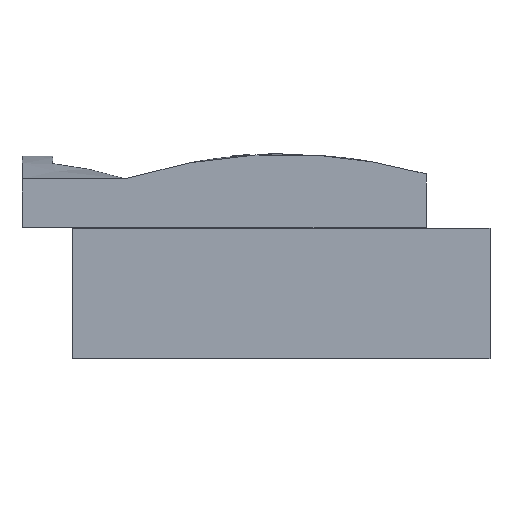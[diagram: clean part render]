
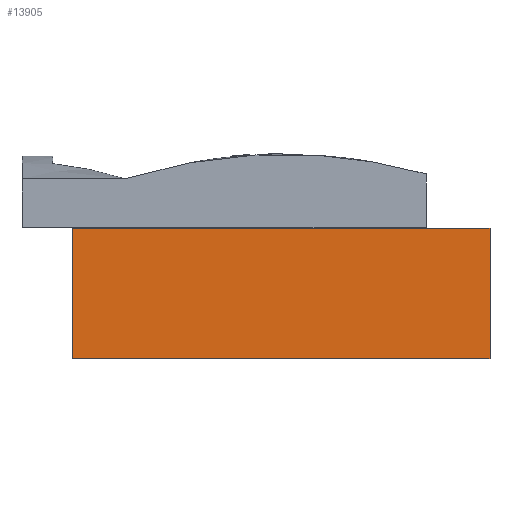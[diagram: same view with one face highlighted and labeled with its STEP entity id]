
A CAD part, left-side view. The second image highlights one B-rep face of the part: STEP entity #13905.
In plain terms, the highlighted planar face has unit normal (-1, 0, 0).
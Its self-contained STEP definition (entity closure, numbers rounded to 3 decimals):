
#353 = EDGE_LOOP ( 'NONE', ( #16240, #22045, #3239, #7091 ) ) ;
#370 = EDGE_CURVE ( 'NONE', #1517, #19537, #18914, .T. ) ;
#379 = DIRECTION ( 'NONE',  ( 0., 0., -1. ) ) ;
#840 = CARTESIAN_POINT ( 'NONE',  ( -105., -128., 80. ) ) ;
#1517 = VERTEX_POINT ( 'NONE', #11506 ) ;
#3239 = ORIENTED_EDGE ( 'NONE', *, *, #29097, .F. ) ;
#3262 = LINE ( 'NONE', #34839, #11065 ) ;
#4345 = CARTESIAN_POINT ( 'NONE',  ( -105., -128., 80. ) ) ;
#6152 = VERTEX_POINT ( 'NONE', #6440 ) ;
#6440 = CARTESIAN_POINT ( 'NONE',  ( -105., -128., 80. ) ) ;
#6579 = DIRECTION ( 'NONE',  ( 0., -1., 0. ) ) ;
#6654 = DIRECTION ( 'NONE',  ( 1., 0., 0. ) ) ;
#7091 = ORIENTED_EDGE ( 'NONE', *, *, #8803, .T. ) ;
#8803 = EDGE_CURVE ( 'NONE', #14983, #1517, #3262, .T. ) ;
#11065 = VECTOR ( 'NONE', #379, 1000. ) ;
#11506 = CARTESIAN_POINT ( 'NONE',  ( -105., 128., 0. ) ) ;
#12786 = AXIS2_PLACEMENT_3D ( 'NONE', #15078, #6654, #15272 ) ;
#13329 = DIRECTION ( 'NONE',  ( 0., 0., -1. ) ) ;
#13905 = ADVANCED_FACE ( 'NONE', ( #26393 ), #32320, .F. ) ;
#14983 = VERTEX_POINT ( 'NONE', #16744 ) ;
#15078 = CARTESIAN_POINT ( 'NONE',  ( -105., -128., 80. ) ) ;
#15272 = DIRECTION ( 'NONE',  ( 0., 0., -1. ) ) ;
#16103 = VECTOR ( 'NONE', #36878, 1000. ) ;
#16240 = ORIENTED_EDGE ( 'NONE', *, *, #370, .T. ) ;
#16744 = CARTESIAN_POINT ( 'NONE',  ( -105., 128., 80. ) ) ;
#18281 = CARTESIAN_POINT ( 'NONE',  ( -105., -128., 0. ) ) ;
#18914 = LINE ( 'NONE', #25041, #16103 ) ;
#19537 = VERTEX_POINT ( 'NONE', #18281 ) ;
#20257 = VECTOR ( 'NONE', #6579, 1000. ) ;
#22045 = ORIENTED_EDGE ( 'NONE', *, *, #28912, .F. ) ;
#25041 = CARTESIAN_POINT ( 'NONE',  ( -105., -128., 0. ) ) ;
#26393 = FACE_OUTER_BOUND ( 'NONE', #353, .T. ) ;
#28912 = EDGE_CURVE ( 'NONE', #6152, #19537, #30572, .T. ) ;
#29097 = EDGE_CURVE ( 'NONE', #14983, #6152, #33563, .T. ) ;
#30572 = LINE ( 'NONE', #4345, #37526 ) ;
#32320 = PLANE ( 'NONE',  #12786 ) ;
#33563 = LINE ( 'NONE', #840, #20257 ) ;
#34839 = CARTESIAN_POINT ( 'NONE',  ( -105., 128., 80. ) ) ;
#36878 = DIRECTION ( 'NONE',  ( 0., -1., 0. ) ) ;
#37526 = VECTOR ( 'NONE', #13329, 1000. ) ;
